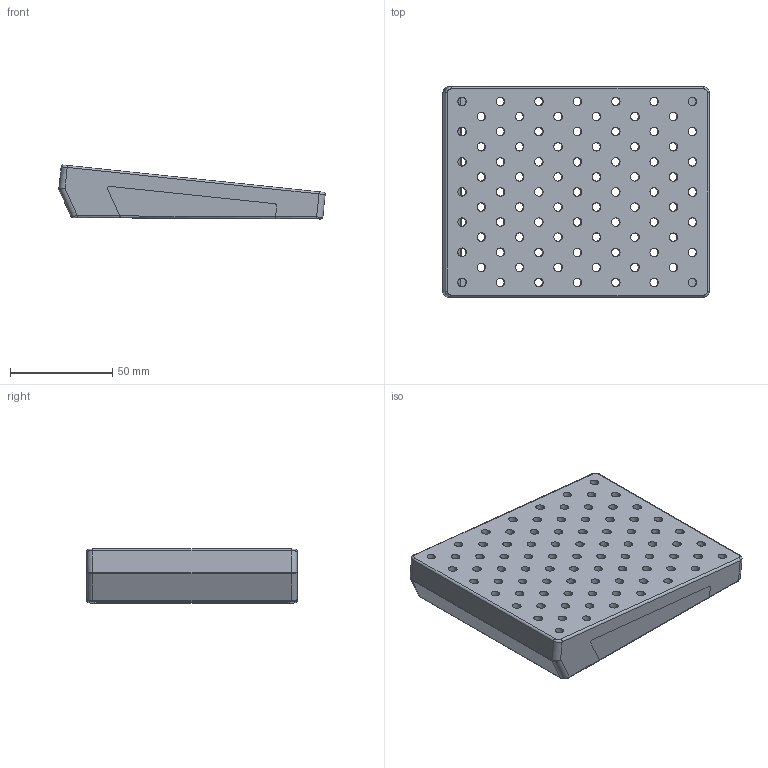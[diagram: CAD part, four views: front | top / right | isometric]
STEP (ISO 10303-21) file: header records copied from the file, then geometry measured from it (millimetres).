
FILE_DESCRIPTION(/* description */ (''),/* implementation_level */ '2;1');
FILE_NAME(/* name */ 'C:/Users/alfreddevries/Documents/3D-Prints/Lube Station/Stems Module.step',/* time_stamp */ '2021-02-05T22:56:26+01:00',/* author */ (''),/* organization */ (''),/* preprocessor_version */ 'ST-DEVELOPER v18.1',/* originating_system */ 'Autodesk Translation Framework v9.7.1.1290',/* authorisation */ '');
FILE_SCHEMA (('AUTOMOTIVE_DESIGN { 1 0 10303 214 3 1 1 }'));
Length unit declared in the file: millimetre
Products named in the file (3): Custom Lube Station; Side Accents; Stems Module
Assembly tree (2 placements, depth 2):
  Custom Lube Station
    Side Accents
    Stems Module
Bounding box: 130.42 x 103 x 26.44 mm (x, y, z)
Volume: 68019.2 mm3; surface area: 48744.6 mm2
Topology: 3 solids, 3 shells, 207 faces, 556 edges, 362 vertices
Faces by surface type: cylinder 116, plane 81, bspline 6, torus 4
Full cylindrical faces by diameter (mm): 4.2 x85, 6.3 x4
Entity records: 7130 total; most frequent: CARTESIAN_POINT 1262, DIRECTION 1206, ORIENTED_EDGE 1108, EDGE_CURVE 554, AXIS2_PLACEMENT_3D 446, EDGE_LOOP 394, VERTEX_POINT 362, LINE 314
